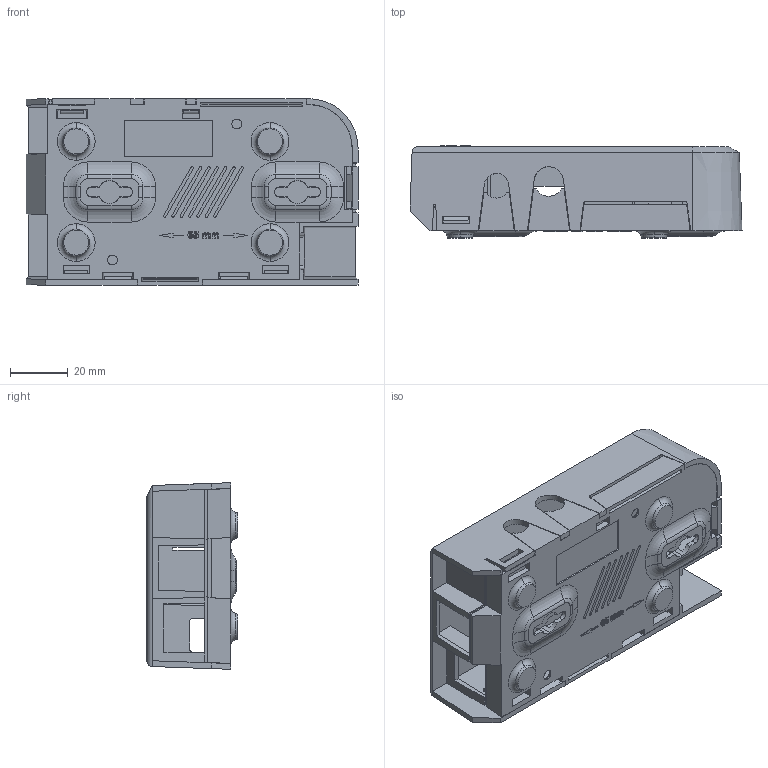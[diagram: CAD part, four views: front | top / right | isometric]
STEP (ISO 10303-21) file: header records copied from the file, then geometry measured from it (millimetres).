
FILE_DESCRIPTION (( 'STEP AP203' ), '1' );
FILE_NAME ('PI312.STEP', '2020-01-17T09:25:37', ( '' ), ( '' ), 'SwSTEP 2.0', 'SolidWorks 2020', '' );
FILE_SCHEMA (( 'CONFIG_CONTROL_DESIGN' ));
Length unit declared in the file: millimetre
Products named in the file (1): PI312
Bounding box: 114.76 x 31.8 x 64.5 mm (x, y, z)
Volume: 45303.2 mm3; surface area: 51117.4 mm2
Topology: 2 solids, 2 shells, 1144 faces, 3202 edges, 2121 vertices
Faces by surface type: plane 741, bspline 235, cone 66, cylinder 62, torus 40
Entity records: 46228 total; most frequent: CARTESIAN_POINT 18295, ORIENTED_EDGE 6404, DIRECTION 4703, EDGE_CURVE 3202, LINE 2353, VECTOR 2353, VERTEX_POINT 2121, EDGE_LOOP 1247
